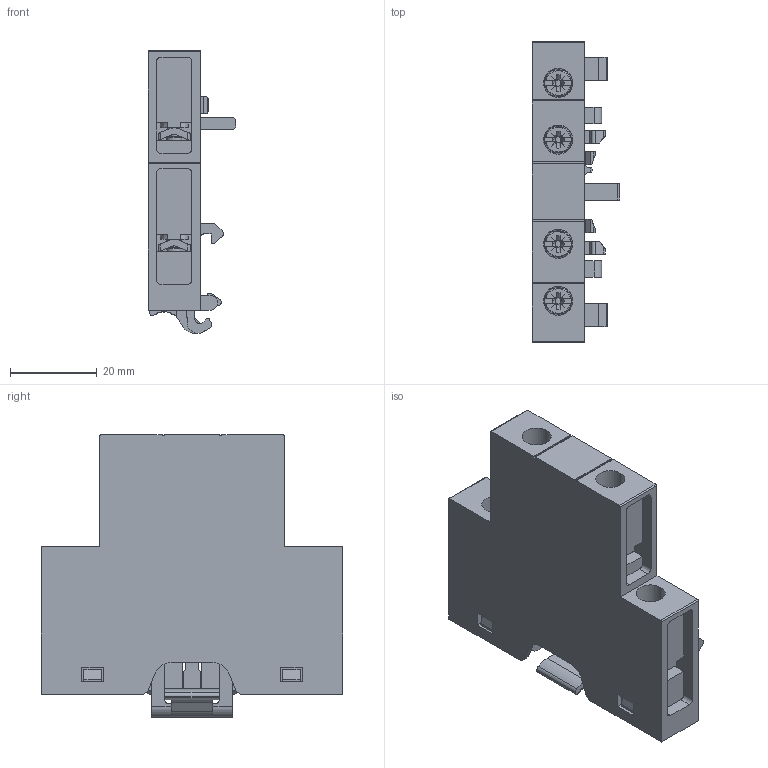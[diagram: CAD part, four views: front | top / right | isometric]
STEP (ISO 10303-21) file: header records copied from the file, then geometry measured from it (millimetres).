
FILE_DESCRIPTION((''),'2;1');
FILE_NAME('10004761485_ASM','2021-01-25T15:25:30',('cgloor'),('Rockwell Automation Switzerland GmbH'),'CREO PARAMETRIC BY PTC INC, 2019444','CREO PARAMETRIC BY PTC INC, 2019444','');
FILE_SCHEMA(('AUTOMOTIVE_DESIGN { 1 0 10303 214 1 1 1 1 }'));
Length unit declared in the file: millimetre
Products named in the file (3): 10004761486; 10004761487; 10004761485_ASM
Assembly tree (5 placements, depth 2):
  10004761485_ASM
    10004761486
    10004761487  x4
Bounding box: 20.2 x 69.4 x 65.15 mm (x, y, z)
Volume: 33822.1 mm3; surface area: 19006 mm2
Topology: 5 solids, 9 shells, 682 faces, 1979 edges, 1322 vertices
Faces by surface type: plane 462, cylinder 164, cone 40, torus 16
Entity records: 21033 total; most frequent: CARTESIAN_POINT 3164, DIRECTION 2668, ORIENTED_EDGE 2622, PRESENTATION_STYLE_ASSIGNMENT 1383, STYLED_ITEM 1383, CURVE_STYLE 1380, EDGE_CURVE 1311, VECTOR 1085
